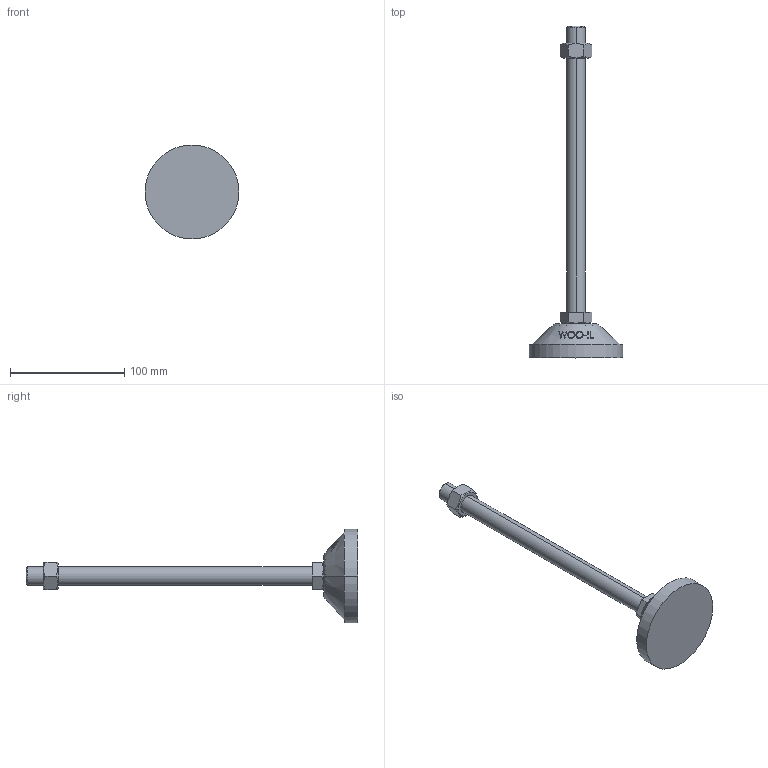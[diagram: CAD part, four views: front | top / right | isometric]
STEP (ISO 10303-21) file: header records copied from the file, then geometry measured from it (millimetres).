
FILE_DESCRIPTION (( 'STEP AP214' ), '1' );
FILE_NAME ('RL82-M16-250.step', '2021-01-06T08:18:04', ( '' ), ( '' ), 'SwSTEP 2.0', 'SolidWorks 2019', '' );
FILE_SCHEMA (( 'AUTOMOTIVE_DESIGN' ));
Length unit declared in the file: millimetre
Products named in the file (1): RL82-M16-250
Bounding box: 82 x 290 x 82 mm (x, y, z)
Volume: 169856.7 mm3; surface area: 31439.5 mm2
Topology: 3 solids, 3 shells, 93 faces, 217 edges, 140 vertices
Faces by surface type: plane 47, cone 22, bspline 16, cylinder 6, torus 2
Entity records: 4223 total; most frequent: CARTESIAN_POINT 2191, ORIENTED_EDGE 434, DIRECTION 349, EDGE_CURVE 217, VERTEX_POINT 140, AXIS2_PLACEMENT_3D 134, EDGE_LOOP 105, ADVANCED_FACE 93
